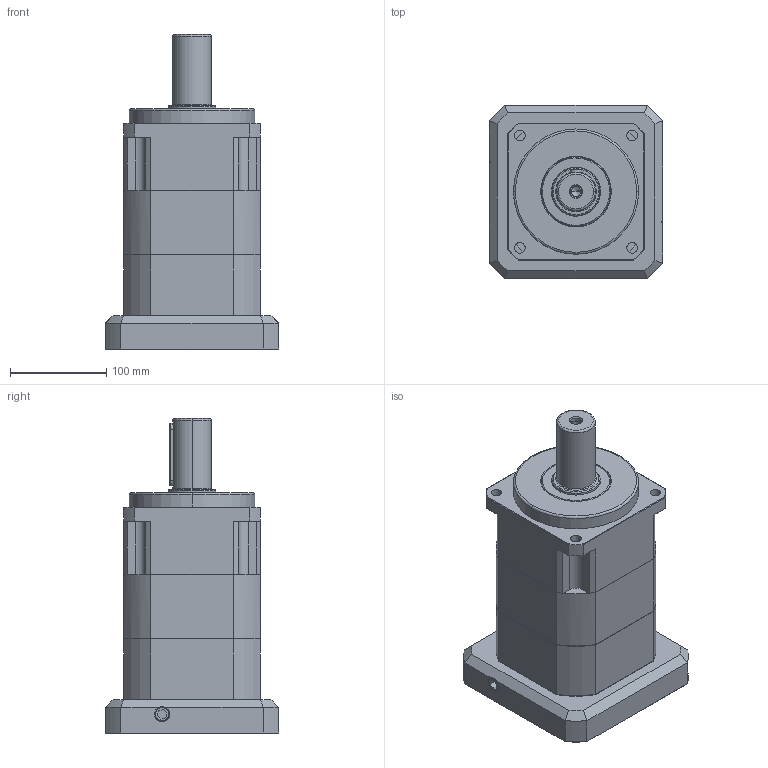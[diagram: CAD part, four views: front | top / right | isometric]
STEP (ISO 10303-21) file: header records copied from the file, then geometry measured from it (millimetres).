
FILE_DESCRIPTION (( 'STEP AP203' ), '1' );
FILE_NAME ('SB142A-2-114.3M12-K.step', '2022-05-30T08:40:35', ( '' ), ( '' ), 'SwSTEP 2.0', 'SolidWorks 2021', '' );
FILE_SCHEMA (( 'CONFIG_CONTROL_DESIGN' ));
Length unit declared in the file: millimetre
Products named in the file (1): SB142A-2-114.3M12-K
Bounding box: 180 x 180 x 327 mm (x, y, z)
Volume: 3962249.5 mm3; surface area: 380262.1 mm2
Topology: 2 solids, 7 shells, 873 faces, 2142 edges, 1310 vertices
Faces by surface type: cylinder 318, plane 282, cone 174, torus 83, sphere 16
Entity records: 26273 total; most frequent: CARTESIAN_POINT 5260, DIRECTION 4740, ORIENTED_EDGE 4192, EDGE_CURVE 2096, AXIS2_PLACEMENT_3D 1912, VERTEX_POINT 1302, CIRCLE 1038, EDGE_LOOP 966
